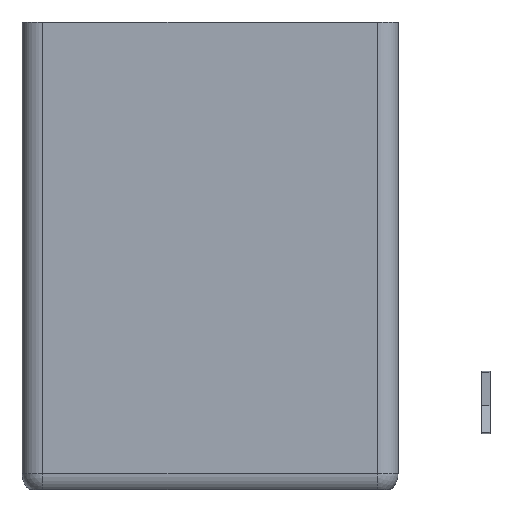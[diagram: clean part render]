
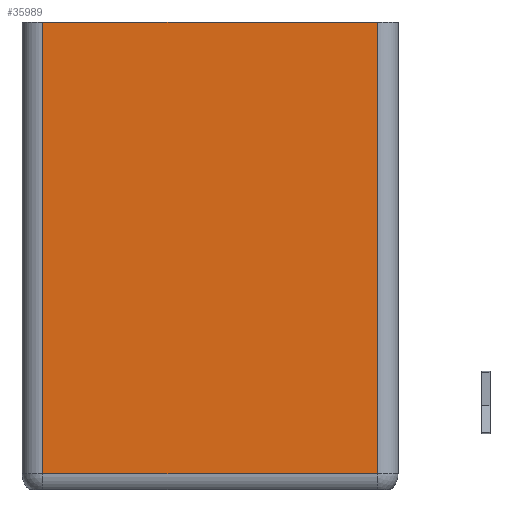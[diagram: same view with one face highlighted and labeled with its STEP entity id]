
A CAD part, left-side view. The second image highlights one B-rep face of the part: STEP entity #35989.
In plain terms, the highlighted planar face has unit normal (-1, 0, 0).
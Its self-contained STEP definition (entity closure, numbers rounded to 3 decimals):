
#2752=PLANE('',#38799);
#5294=FACE_OUTER_BOUND('',#7898,.T.);
#7898=EDGE_LOOP('',(#32812,#32813,#32814,#32815));
#12170=LINE('',#58553,#16469);
#12171=LINE('',#58555,#16470);
#12172=LINE('',#58557,#16471);
#12173=LINE('',#58558,#16472);
#16469=VECTOR('',#48396,10.);
#16470=VECTOR('',#48397,10.);
#16471=VECTOR('',#48398,10.);
#16472=VECTOR('',#48399,10.);
#18930=VERTEX_POINT('',#58551);
#18931=VERTEX_POINT('',#58552);
#18932=VERTEX_POINT('',#58554);
#18933=VERTEX_POINT('',#58556);
#23612=EDGE_CURVE('',#18930,#18931,#12170,.T.);
#23613=EDGE_CURVE('',#18930,#18932,#12171,.T.);
#23614=EDGE_CURVE('',#18933,#18932,#12172,.T.);
#23615=EDGE_CURVE('',#18931,#18933,#12173,.T.);
#32812=ORIENTED_EDGE('',*,*,#23612,.F.);
#32813=ORIENTED_EDGE('',*,*,#23613,.T.);
#32814=ORIENTED_EDGE('',*,*,#23614,.F.);
#32815=ORIENTED_EDGE('',*,*,#23615,.F.);
#35989=ADVANCED_FACE('',(#5294),#2752,.T.);
#38799=AXIS2_PLACEMENT_3D('',#58550,#48394,#48395);
#48394=DIRECTION('center_axis',(-1.,0.,0.));
#48395=DIRECTION('ref_axis',(0.,0.,1.));
#48396=DIRECTION('',(0.,0.,-1.));
#48397=DIRECTION('',(0.,1.,0.));
#48398=DIRECTION('',(0.,0.,1.));
#48399=DIRECTION('',(0.,1.,0.));
#58550=CARTESIAN_POINT('Origin',(709.911,504.755,333.962));
#58551=CARTESIAN_POINT('',(709.911,424.753,333.962));
#58552=CARTESIAN_POINT('',(709.911,424.753,225.964));
#58553=CARTESIAN_POINT('',(709.911,424.753,299.202));
#58554=CARTESIAN_POINT('',(709.911,504.755,333.962));
#58555=CARTESIAN_POINT('',(709.911,444.754,333.962));
#58556=CARTESIAN_POINT('',(709.911,504.755,225.964));
#58557=CARTESIAN_POINT('',(709.911,504.755,281.963));
#58558=CARTESIAN_POINT('',(709.911,491.318,225.964));
